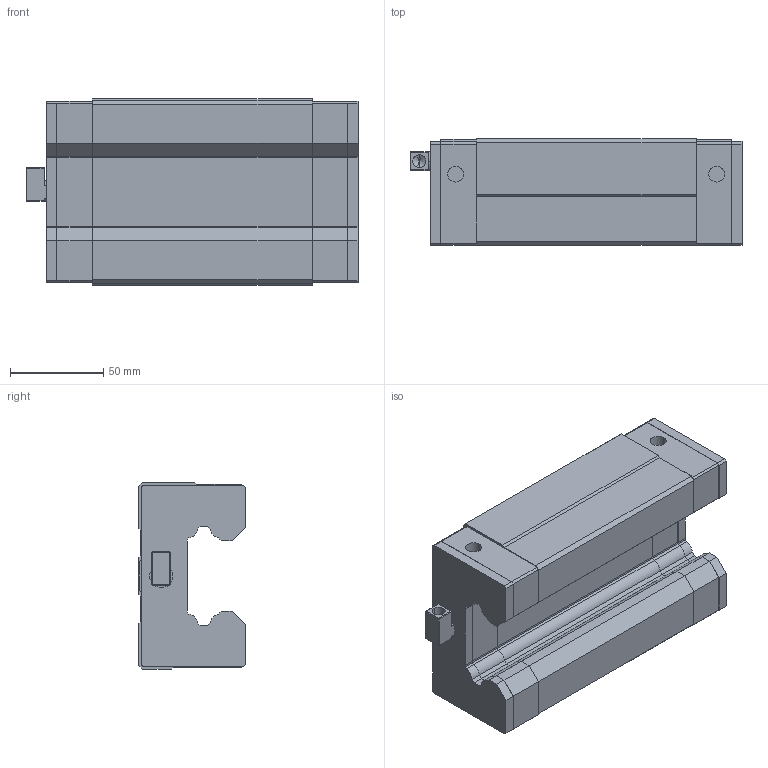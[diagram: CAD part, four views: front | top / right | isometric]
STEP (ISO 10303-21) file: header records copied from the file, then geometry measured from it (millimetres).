
FILE_DESCRIPTION (( 'STEP AP203' ), '1' );
FILE_NAME ('SGL55CA.STEP', '2025-06-27T05:38:45', ( 'Owner' ), ( 'Organization' ), 'SwSTEP 2.0', 'SolidWorks 2020', '' );
FILE_SCHEMA (( 'CONFIG_CONTROL_DESIGN' ));
Length unit declared in the file: millimetre
Products named in the file (1): SGL55CA
Bounding box: 177.7 x 57 x 100 mm (x, y, z)
Volume: 684163.9 mm3; surface area: 109743.6 mm2
Topology: 7 solids, 7 shells, 369 faces, 942 edges, 597 vertices
Faces by surface type: plane 267, cylinder 82, cone 20
Entity records: 10999 total; most frequent: CARTESIAN_POINT 1917, ORIENTED_EDGE 1864, DIRECTION 1842, EDGE_CURVE 932, LINE 750, VECTOR 750, VERTEX_POINT 597, AXIS2_PLACEMENT_3D 546
